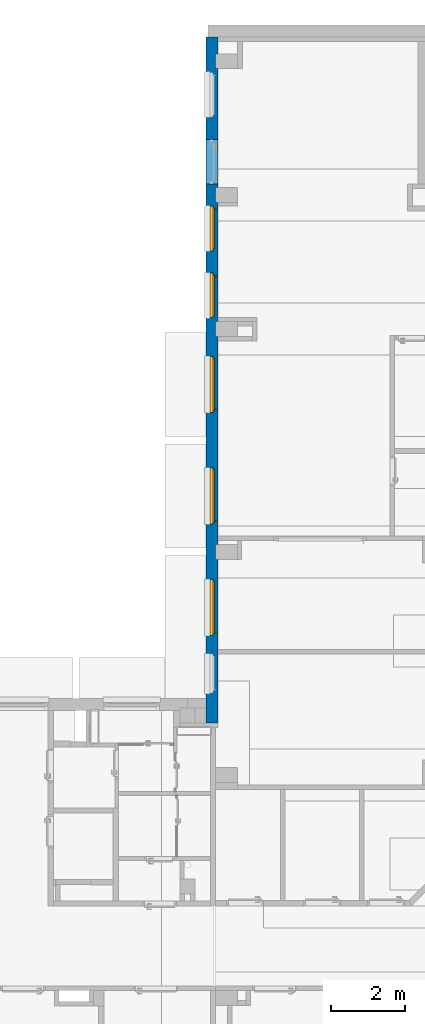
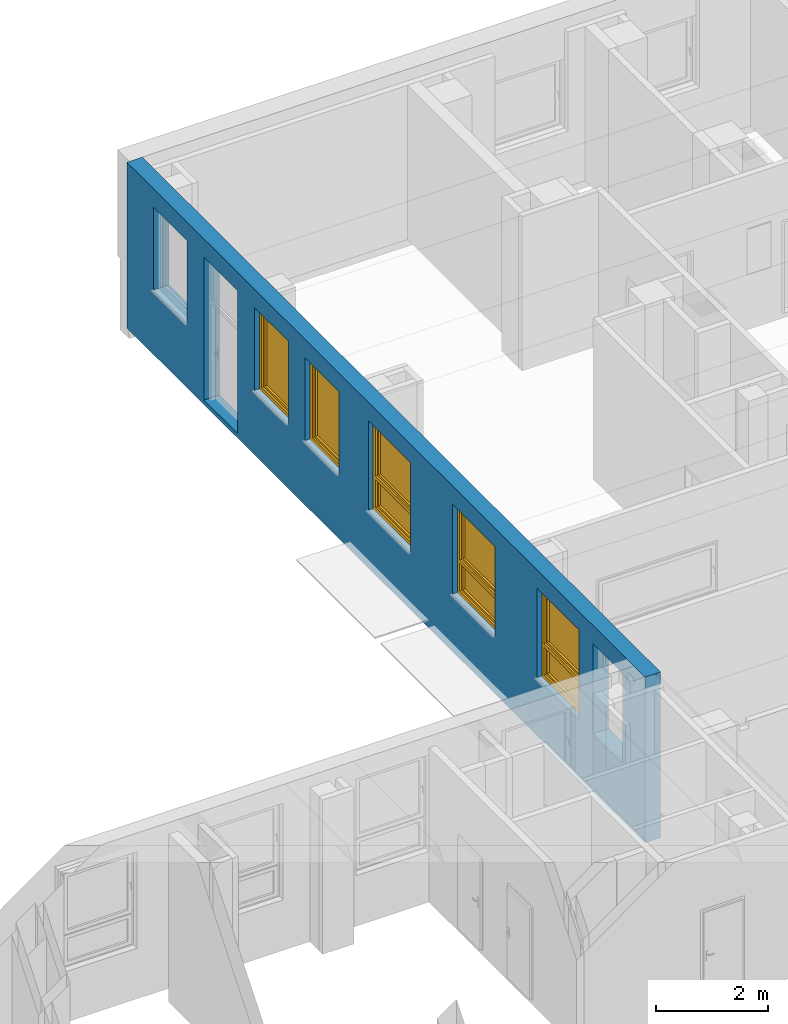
# One storey, part 46 of 140: 5 windows, 1 wall, 9 openings.
"""IFC4 building model written with IfcOpenShell, lengths in metres."""

from ifc_helpers import new_model, entity, si_unit, converted_unit, derived_unit, frame, frame_2d, origin, origin_with_axes, place, context, subcontext, project, spatial, polyline, rectangle, outline, extrude, clip, bounded_halfspace, closed_shell, open_shell, surface_model, source, transform, mapped, material, layer, layer_set, layer_usage, element, fill, save


model = new_model("IFC4")

# Units and contexts
model_context = context("Model", 3, precision=1e-05, world=origin())
body_context = subcontext(model_context, "Body", "Model", "MODEL_VIEW")
ifc_project = project(units=[si_unit("LENGTHUNIT", "METRE"), si_unit("AREAUNIT", "SQUARE_METRE"), si_unit("VOLUMEUNIT", "CUBIC_METRE"), si_unit("MASSUNIT", "GRAM", prefix="KILO"), converted_unit("PLANEANGLEUNIT", "DEGREE", entity("IfcPlaneAngleMeasure", 0.0174532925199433), si_unit("PLANEANGLEUNIT", "RADIAN"), dimensions=[0, 0, 0, 0, 0, 0, 0]), derived_unit("THERMALTRANSMITTANCEUNIT", [(si_unit("POWERUNIT", "WATT"), 1), (si_unit("THERMODYNAMICTEMPERATUREUNIT", "KELVIN"), -1), (si_unit("LENGTHUNIT", "METRE"), -2)]), derived_unit("VOLUMETRICFLOWRATEUNIT", [(si_unit("LENGTHUNIT", "METRE"), 3), (converted_unit("TIMEUNIT", "hour", entity("IfcTimeMeasure", 3600.0), si_unit("TIMEUNIT", "SECOND"), dimensions=[0, 0, 1, 0, 0, 0, 0]), -1), (si_unit("LENGTHUNIT", "METRE"), -1)])], contexts=[model_context])

# Site, building, storey
site_placement = place(None, origin())
site = spatial("IfcSite", under=ifc_project, at=site_placement, Name="3. ASŘ", CompositionType="ELEMENT")
building_placement = place(site_placement, origin())
building = spatial("IfcBuilding", under=site, at=building_placement, Name="Pavilon C", CompositionType="ELEMENT")
storey_placement = place(building_placement, origin())
storey = spatial("IfcBuildingStorey", under=building, at=storey_placement, Name="Půdorys 1.NP", CompositionType="ELEMENT", Elevation=0.0)

# Wall, openings, windows
ifc_material = material(Name="ZELEZOBETONOVÁ KCE")
ifc_layer = layer(ifc_material, 0.32)
ifc_layer_set = layer_set([ifc_layer])
ifc_layer_usage = layer_usage(ifc_layer_set, "AXIS2", "POSITIVE", 0.0)
wall_placement = place(storey_placement, frame((24.5, 33.05, -0.1), z_axis=(0.0, 0.0, 1.0), x_axis=(-1.97180423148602e-16, -1.0, 0.0)))
wall = element("IfcWall", 1, at=wall_placement, inside=storey, material=ifc_layer_usage, Name="ZELEZOBETONOVÁ KCE", context=body_context, shape_type="Clipping", body=[
    clip(clip(clip(clip(extrude(rectangle(XDim=18.45, YDim=0.32, at=frame_2d((9.225, 0.16), x_axis=(1.0, 0.0))), origin_with_axes(), (0.0, 0.0, 1.0), 3.6), bounded_halfspace(frame((0.65, 0.285, 3.35), z_axis=(0.0, 0.0, 1.0), x_axis=(1.97180423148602e-16, -1.0, 0.0)), True, origin_with_axes(), polyline([(0.45, 0.32), (0.45, 0.250000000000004), (0.85, 0.250000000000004), (0.85, 0.32), (0.45, 0.32)]))), bounded_halfspace(frame((4.25, 0.285000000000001, 3.35), z_axis=(0.0, 0.0, 1.0), x_axis=(1.97180423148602e-16, -1.0, 0.0)), True, origin_with_axes(), polyline([(4.05, 0.320000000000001), (4.05, 0.250000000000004), (4.45, 0.250000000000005), (4.45, 0.320000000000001), (4.05, 0.320000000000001)]))), bounded_halfspace(frame((7.85, 0.285000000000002, 3.35), z_axis=(0.0, 0.0, 1.0), x_axis=(1.97180423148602e-16, -1.0, 0.0)), True, origin_with_axes(), polyline([(7.65, 0.320000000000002), (7.65, 0.250000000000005), (8.05, 0.250000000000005), (8.05, 0.320000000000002), (7.65, 0.320000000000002)]))), bounded_halfspace(frame((13.85, 0.285000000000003, 3.35), z_axis=(0.0, 0.0, 1.0), x_axis=(1.97180423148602e-16, -1.0, 0.0)), True, origin_with_axes(), polyline([(13.65, 0.320000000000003), (13.65, 0.250000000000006), (14.05, 0.250000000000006), (14.05, 0.320000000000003), (13.65, 0.320000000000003)]))),
])
opening_1_placement = place(wall_placement, frame((18.3295933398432, 0.32, 3.15000000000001), z_axis=(-0.642787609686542, -0.766044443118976, 0.0), x_axis=(0.0, 0.0, 1.0)))
element("IfcOpeningElement", 2, at=opening_1_placement, cuts=wall, Name="CHL", ObjectType="Opening", context=body_context, shape_type="SweptSolid", body=[
    extrude(outline(polyline([(0.0999999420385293, 0.0), (0.0895470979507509, 0.000547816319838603), (0.0792087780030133, 0.00218525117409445), (0.0690982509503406, 0.00489436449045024), (0.059326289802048, 0.00864547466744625), (0.0499999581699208, 0.0133974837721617), (0.0412214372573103, 0.0190983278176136), (0.0330869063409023, 0.0256855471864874), (0.0256854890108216, 0.0330869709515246), (0.0190982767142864, 0.041221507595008), (0.0133974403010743, 0.0500000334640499), (0.00864543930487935, 0.0593263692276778), (0.0048943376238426, 0.0690983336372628), (0.00218523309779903, 0.0792088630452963), (0.000547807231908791, 0.0895471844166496), (0.0, 0.10000002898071), (0.000547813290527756, 0.110452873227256), (0.00218524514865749, 0.120791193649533), (0.00489435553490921, 0.130901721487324), (0.00864546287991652, 0.140673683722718), (0.0133974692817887, 0.150000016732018), (0.0190983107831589, 0.158778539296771), (0.0256855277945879, 0.166913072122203), (0.0330869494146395, 0.174314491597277), (0.0412214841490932, 0.180901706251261), (0.0500000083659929, 0.186602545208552), (0.0593263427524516, 0.191354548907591), (0.06909830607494, 0.195105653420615), (0.0792088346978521, 0.197814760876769), (0.0895471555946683, 0.199452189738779), (0.0999999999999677, 0.2), (0.110452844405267, 0.199452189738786), (0.120791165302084, 0.197814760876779), (0.130901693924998, 0.195105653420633), (0.140673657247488, 0.191354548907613), (0.14999999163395, 0.186602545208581), (0.158778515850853, 0.180901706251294), (0.16691305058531, 0.174314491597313), (0.174314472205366, 0.166913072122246), (0.180901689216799, 0.158778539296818), (0.186602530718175, 0.150000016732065), (0.191354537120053, 0.140673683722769), (0.195105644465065, 0.130901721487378), (0.197814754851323, 0.120791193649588), (0.199452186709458, 0.11045287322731), (0.199999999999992, 0.100000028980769), (0.199452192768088, 0.0895471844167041), (0.197814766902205, 0.0792088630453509), (0.195105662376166, 0.0690983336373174), (0.191354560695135, 0.0593263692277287), (0.186602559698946, 0.0500000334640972), (0.180901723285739, 0.0412215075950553), (0.174314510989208, 0.0330869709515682), (0.166913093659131, 0.0256855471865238), (0.158778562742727, 0.0190983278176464), (0.15000004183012, 0.0133974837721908), (0.140673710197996, 0.00864547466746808), (0.130901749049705, 0.00489436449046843), (0.120791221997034, 0.00218525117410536), (0.110452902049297, 0.000547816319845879), (0.0999999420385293, 0.0)])), origin_with_axes(), (0.0, 0.0, 1.0), 0.952730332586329),
])
opening_2_placement = place(wall_placement, frame((14.6, -7.5914462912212e-16, 1.25), z_axis=(0.0, 1.0, 0.0), x_axis=(0.0, 0.0, 1.0)))
opening_2 = element("IfcOpeningElement", 3, at=opening_2_placement, cuts=wall, Name="Okenní otvor", ObjectType="Opening", context=body_context, shape_type="SweptSolid", body=[
    extrude(outline(polyline([(0.0, 1.5), (1.95, 1.5), (1.95, 0.0), (0.0, 0.0), (0.0, 1.5)])), origin_with_axes(), (0.0, 0.0, 1.0), 0.32),
])
opening_3_placement = place(wall_placement, frame((11.6, -1.35068589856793e-15, 1.25), z_axis=(0.0, 1.0, 0.0), x_axis=(0.0, 0.0, 1.0)))
opening_3 = element("IfcOpeningElement", 4, at=opening_3_placement, cuts=wall, Name="Okenní otvor", ObjectType="Opening", context=body_context, shape_type="SweptSolid", body=[
    extrude(outline(polyline([(0.0, 1.5), (1.95, 1.5), (1.95, 0.0), (0.0, 0.0), (0.0, 1.5)])), origin_with_axes(), (0.0, 0.0, 1.0), 0.32),
])
opening_4_placement = place(wall_placement, frame((8.6, -1.94222716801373e-15, 1.25), z_axis=(0.0, 1.0, 0.0), x_axis=(0.0, 0.0, 1.0)))
opening_4 = element("IfcOpeningElement", 5, at=opening_4_placement, cuts=wall, Name="Okenní otvor", ObjectType="Opening", context=body_context, shape_type="SweptSolid", body=[
    extrude(outline(polyline([(0.0, 1.5), (1.95, 1.5), (1.95, 0.0), (0.0, 0.0), (0.0, 1.5)])), origin_with_axes(), (0.0, 0.0, 1.0), 0.320000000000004),
])
opening_5_placement = place(wall_placement, frame((6.35, 1.25209568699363e-15, 1.4), z_axis=(0.0, 1.0, 0.0), x_axis=(0.0, 0.0, 1.0)))
opening_5 = element("IfcOpeningElement", 6, at=opening_5_placement, cuts=wall, Name="Okenní otvor", ObjectType="Opening", context=body_context, shape_type="SweptSolid", body=[
    extrude(outline(polyline([(0.0, 1.2), (1.8, 1.2), (1.8, 0.0), (0.0, 0.0), (0.0, 1.2)])), origin_with_axes(), (0.0, 0.0, 1.0), 0.32),
])
opening_6_placement = place(wall_placement, frame((4.55000000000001, 8.97170925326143e-16, 1.4), z_axis=(0.0, 1.0, 0.0), x_axis=(0.0, 0.0, 1.0)))
opening_6 = element("IfcOpeningElement", 7, at=opening_6_placement, cuts=wall, Name="Okenní otvor", ObjectType="Opening", context=body_context, shape_type="SweptSolid", body=[
    extrude(outline(polyline([(0.0, 1.2), (1.8, 1.2), (1.8, 0.0), (0.0, 0.0), (0.0, 1.2)])), origin_with_axes(), (0.0, 0.0, 1.0), 0.32),
])
opening_7_placement = place(wall_placement, frame((0.950000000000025, 1.87321401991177e-16, 1.4), z_axis=(-3.5527136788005e-16, 1.0, 0.0), x_axis=(0.0, 0.0, 1.0)))
element("IfcOpeningElement", 8, at=opening_7_placement, cuts=wall, Name="Okenní otvor", ObjectType="Opening", context=body_context, shape_type="SweptSolid", body=[
    extrude(outline(polyline([(0.0, 1.2), (1.8, 1.2), (1.8, 0.0), (0.0, 0.0), (0.0, 1.2)])), origin_with_axes(), (0.0, 0.0, 1.0), 0.32),
])
opening_8_placement = place(wall_placement, frame((2.75000000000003, 5.42246163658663e-16, 0.1), z_axis=(0.0, 1.0, 0.0), x_axis=(0.0, 0.0, 1.0)))
element("IfcOpeningElement", 9, at=opening_8_placement, cuts=wall, Name="Dveřní otvor", ObjectType="Opening", context=body_context, shape_type="SweptSolid", body=[
    extrude(outline(polyline([(0.0, 1.2), (3.1, 1.2), (3.1, 0.0), (0.0, 0.0), (0.0, 1.2)])), origin_with_axes(), (0.0, 0.0, 1.0), 0.32),
])
opening_9_placement = place(wall_placement, frame((16.6, -3.64783782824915e-16, 1.25), z_axis=(0.0, 1.0, 0.0), x_axis=(0.0, 0.0, 1.0)))
element("IfcOpeningElement", 10, at=opening_9_placement, cuts=wall, Name="Okenní otvor", ObjectType="Opening", context=body_context, shape_type="SweptSolid", body=[
    extrude(outline(polyline([(0.0, 1.05), (1.95, 1.05), (1.95, 0.0), (0.0, 0.0), (0.0, 1.05)])), origin_with_axes(), (0.0, 0.0, 1.0), 0.32),
])
shared_shape_1 = source(origin_with_axes(), body_context, "Body", "SurfaceModel", [
    surface_model("IfcShellBasedSurfaceModel", [(0.0, 0.182, 1.95), (0.0, 0.182, -5.63337527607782e-18), (0.08, 0.182, -5.63337527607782e-18), (0.08, 0.182, 1.95), (0.0, 0.0899999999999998, 5.63337527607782e-18), (0.0, 0.0900000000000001, 1.95), (0.08, 0.0900000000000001, 1.95), (0.08, 0.0899999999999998, 5.63337527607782e-18)], [closed_shell([[[0, 1, 2, 3]], [[4, 5, 6, 7]], [[1, 0, 5, 4]], [[2, 1, 4, 7]], [[3, 2, 7, 6]], [[0, 3, 6, 5]]], orient=[[False], [False], [False], [False], [False], [False]])]),
    surface_model("IfcShellBasedSurfaceModel", [(1.42, 0.182, 1.95), (1.42, 0.182, -5.63337527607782e-18), (1.5, 0.182, -5.63337527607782e-18), (1.5, 0.182, 1.95), (1.42, 0.0899999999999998, 5.63337527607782e-18), (1.42, 0.0900000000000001, 1.95), (1.5, 0.0900000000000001, 1.95), (1.5, 0.0899999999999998, 5.63337527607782e-18)], [closed_shell([[[0, 1, 2, 3]], [[4, 5, 6, 7]], [[1, 0, 5, 4]], [[2, 1, 4, 7]], [[3, 2, 7, 6]], [[0, 3, 6, 5]]], orient=[[False], [False], [False], [False], [False], [False]])]),
    surface_model("IfcShellBasedSurfaceModel", [(0.08, 0.182, 0.08), (0.08, 0.182, -5.63337527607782e-18), (1.42, 0.182, -5.63337527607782e-18), (1.42, 0.182, 0.08), (0.08, 0.0899999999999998, 5.63337527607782e-18), (0.08, 0.0899999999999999, 0.08), (1.42, 0.0899999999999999, 0.08), (1.42, 0.0899999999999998, 5.63337527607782e-18)], [closed_shell([[[0, 1, 2, 3]], [[4, 5, 6, 7]], [[1, 0, 5, 4]], [[2, 1, 4, 7]], [[3, 2, 7, 6]], [[0, 3, 6, 5]]], orient=[[False], [False], [False], [False], [False], [False]])]),
    surface_model("IfcShellBasedSurfaceModel", [(0.08, 0.182, 1.95), (0.08, 0.182, 1.87), (1.42, 0.182, 1.87), (1.42, 0.182, 1.95), (0.08, 0.0900000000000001, 1.87), (0.08, 0.0900000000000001, 1.95), (1.42, 0.0900000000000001, 1.95), (1.42, 0.0900000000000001, 1.87)], [closed_shell([[[0, 1, 2, 3]], [[4, 5, 6, 7]], [[1, 0, 5, 4]], [[2, 1, 4, 7]], [[3, 2, 7, 6]], [[0, 3, 6, 5]]], orient=[[False], [False], [False], [False], [False], [False]])]),
    surface_model("IfcShellBasedSurfaceModel", [(0.08, 0.182, 0.76), (0.08, 0.182, 0.68), (1.42, 0.182, 0.68), (1.42, 0.182, 0.76), (0.08, 0.0899999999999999, 0.68), (0.08, 0.0899999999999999, 0.76), (1.42, 0.0899999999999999, 0.76), (1.42, 0.0899999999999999, 0.68)], [closed_shell([[[0, 1, 2, 3]], [[4, 5, 6, 7]], [[1, 0, 5, 4]], [[2, 1, 4, 7]], [[3, 2, 7, 6]], [[0, 3, 6, 5]]], orient=[[False], [False], [False], [False], [False], [False]])]),
    surface_model("IfcShellBasedSurfaceModel", [(0.05, 0.145, 0.71), (0.05, 0.145, 0.05), (0.13, 0.145, 0.05), (0.13, 0.145, 0.71), (0.05, 0.0599999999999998, 0.05), (0.05, 0.0599999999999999, 0.71), (0.13, 0.0599999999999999, 0.71), (0.13, 0.0599999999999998, 0.05)], [closed_shell([[[0, 1, 2, 3]], [[4, 5, 6, 7]], [[1, 0, 5, 4]], [[2, 1, 4, 7]], [[3, 2, 7, 6]], [[0, 3, 6, 5]]], orient=[[False], [False], [False], [False], [False], [False]])]),
    surface_model("IfcShellBasedSurfaceModel", [(1.37, 0.145, 0.71), (1.37, 0.145, 0.05), (1.45, 0.145, 0.05), (1.45, 0.145, 0.71), (1.37, 0.0599999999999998, 0.05), (1.37, 0.0599999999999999, 0.71), (1.45, 0.0599999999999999, 0.71), (1.45, 0.0599999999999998, 0.05)], [closed_shell([[[0, 1, 2, 3]], [[4, 5, 6, 7]], [[1, 0, 5, 4]], [[2, 1, 4, 7]], [[3, 2, 7, 6]], [[0, 3, 6, 5]]], orient=[[False], [False], [False], [False], [False], [False]])]),
    surface_model("IfcShellBasedSurfaceModel", [(0.13, 0.145, 0.13), (0.13, 0.145, 0.05), (1.37, 0.145, 0.05), (1.37, 0.145, 0.13), (0.13, 0.0599999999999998, 0.05), (0.13, 0.0599999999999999, 0.13), (1.37, 0.0599999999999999, 0.13), (1.37, 0.0599999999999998, 0.05)], [closed_shell([[[0, 1, 2, 3]], [[4, 5, 6, 7]], [[1, 0, 5, 4]], [[2, 1, 4, 7]], [[3, 2, 7, 6]], [[0, 3, 6, 5]]], orient=[[False], [False], [False], [False], [False], [False]])]),
    surface_model("IfcShellBasedSurfaceModel", [(0.13, 0.145, 0.71), (0.13, 0.145, 0.63), (1.37, 0.145, 0.63), (1.37, 0.145, 0.71), (0.13, 0.0599999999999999, 0.63), (0.13, 0.0599999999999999, 0.71), (1.37, 0.0599999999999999, 0.71), (1.37, 0.0599999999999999, 0.63)], [closed_shell([[[0, 1, 2, 3]], [[4, 5, 6, 7]], [[1, 0, 5, 4]], [[2, 1, 4, 7]], [[3, 2, 7, 6]], [[0, 3, 6, 5]]], orient=[[False], [False], [False], [False], [False], [False]])]),
    surface_model("IfcShellBasedSurfaceModel", [(0.05, 0.145, 1.9), (0.05, 0.145, 0.73), (0.13, 0.145, 0.73), (0.13, 0.145, 1.9), (0.05, 0.0599999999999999, 0.73), (0.05, 0.0600000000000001, 1.9), (0.13, 0.0600000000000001, 1.9), (0.13, 0.0599999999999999, 0.73)], [closed_shell([[[0, 1, 2, 3]], [[4, 5, 6, 7]], [[1, 0, 5, 4]], [[2, 1, 4, 7]], [[3, 2, 7, 6]], [[0, 3, 6, 5]]], orient=[[False], [False], [False], [False], [False], [False]])]),
    surface_model("IfcShellBasedSurfaceModel", [(1.37, 0.145, 1.9), (1.37, 0.145, 0.73), (1.45, 0.145, 0.73), (1.45, 0.145, 1.9), (1.37, 0.0599999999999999, 0.73), (1.37, 0.0600000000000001, 1.9), (1.45, 0.0600000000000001, 1.9), (1.45, 0.0599999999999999, 0.73)], [closed_shell([[[0, 1, 2, 3]], [[4, 5, 6, 7]], [[1, 0, 5, 4]], [[2, 1, 4, 7]], [[3, 2, 7, 6]], [[0, 3, 6, 5]]], orient=[[False], [False], [False], [False], [False], [False]])]),
    surface_model("IfcShellBasedSurfaceModel", [(0.13, 0.145, 0.81), (0.13, 0.145, 0.73), (1.37, 0.145, 0.73), (1.37, 0.145, 0.81), (0.13, 0.0599999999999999, 0.73), (0.13, 0.0599999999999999, 0.81), (1.37, 0.0599999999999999, 0.81), (1.37, 0.0599999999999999, 0.73)], [closed_shell([[[0, 1, 2, 3]], [[4, 5, 6, 7]], [[1, 0, 5, 4]], [[2, 1, 4, 7]], [[3, 2, 7, 6]], [[0, 3, 6, 5]]], orient=[[False], [False], [False], [False], [False], [False]])]),
    surface_model("IfcShellBasedSurfaceModel", [(0.13, 0.145, 1.9), (0.13, 0.145, 1.82), (1.37, 0.145, 1.82), (1.37, 0.145, 1.9), (0.13, 0.0600000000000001, 1.82), (0.13, 0.0600000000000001, 1.9), (1.37, 0.0600000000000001, 1.9), (1.37, 0.0600000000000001, 1.82)], [closed_shell([[[0, 1, 2, 3]], [[4, 5, 6, 7]], [[1, 0, 5, 4]], [[2, 1, 4, 7]], [[3, 2, 7, 6]], [[0, 3, 6, 5]]], orient=[[False], [False], [False], [False], [False], [False]])]),
    surface_model("IfcShellBasedSurfaceModel", [(0.0775, 0.06, 1.335), (0.0775, 0.06, 1.295), (0.1025, 0.06, 1.295), (0.1025, 0.06, 1.335), (0.0775, 0.05, 1.295), (0.0775, 0.05, 1.335), (0.1025, 0.05, 1.335), (0.1025, 0.05, 1.295)], [closed_shell([[[0, 1, 2, 3]], [[4, 5, 6, 7]], [[1, 0, 5, 4]], [[2, 1, 4, 7]], [[3, 2, 7, 6]], [[0, 3, 6, 5]]], orient=[[False], [False], [False], [False], [False], [False]])]),
    surface_model("IfcShellBasedSurfaceModel", [(0.1, 0.05, 1.315), (0.0986602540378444, 0.05, 1.32), (0.095, 0.05, 1.32366025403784), (0.09, 0.05, 1.325), (0.085, 0.05, 1.32366025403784), (0.0813397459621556, 0.05, 1.32), (0.08, 0.05, 1.315), (0.0813397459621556, 0.05, 1.31), (0.085, 0.05, 1.30633974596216), (0.09, 0.05, 1.305), (0.095, 0.05, 1.30633974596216), (0.0986602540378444, 0.05, 1.31), (0.1, 0.01, 1.315), (0.0986602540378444, 0.00500000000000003, 1.32), (0.095, 0.00133974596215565, 1.32366025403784), (0.09, 2.8421709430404e-17, 1.325), (0.085, 0.00133974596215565, 1.32366025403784), (0.0813397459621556, 0.00500000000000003, 1.32), (0.08, 0.01, 1.315), (0.0813397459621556, 0.015, 1.31), (0.085, 0.0186602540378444, 1.30633974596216), (0.09, 0.02, 1.305), (0.095, 0.0186602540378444, 1.30633974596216), (0.0986602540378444, 0.015, 1.31), (0.1, 0.01, 1.2), (0.0986602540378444, 0.005, 1.2), (0.095, 0.00133974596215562, 1.2), (0.09, 0.0, 1.2), (0.085, 0.00133974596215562, 1.2), (0.0813397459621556, 0.005, 1.2), (0.08, 0.01, 1.2), (0.0813397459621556, 0.015, 1.2), (0.085, 0.0186602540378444, 1.2), (0.09, 0.02, 1.2), (0.095, 0.0186602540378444, 1.2), (0.0986602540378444, 0.015, 1.2)], [open_shell([[[0, 1, 2, 3, 4, 5, 6, 7, 8, 9, 10, 11]], [[0, 12, 13, 1]], [[1, 13, 14, 2]], [[2, 14, 15, 3]], [[3, 15, 16, 4]], [[4, 16, 17, 5]], [[5, 17, 18, 6]], [[6, 18, 19, 7]], [[7, 19, 20, 8]], [[8, 20, 21, 9]], [[9, 21, 22, 10]], [[10, 22, 23, 11]], [[11, 23, 12, 0]], [[12, 24, 25, 13]], [[13, 25, 26, 14]], [[14, 26, 27, 15]], [[15, 27, 28, 16]], [[16, 28, 29, 17]], [[17, 29, 30, 18]], [[18, 30, 31, 19]], [[19, 31, 32, 20]], [[20, 32, 33, 21]], [[21, 33, 34, 22]], [[22, 34, 35, 23]], [[23, 35, 24, 12]]], orient=[[False], [False], [False], [False], [False], [False], [False], [False], [False], [False], [False], [False], [False], [False], [False], [False], [False], [False], [False], [False], [False], [False], [False], [False], [False]])]),
    surface_model("IfcShellBasedSurfaceModel", [(0.13, 0.1025, 0.13), (1.37, 0.1025, 0.13), (1.37, 0.1025, 0.63), (0.13, 0.1025, 0.63)], [open_shell([[[0, 1, 2, 3]]], orient=[[False]])]),
    surface_model("IfcShellBasedSurfaceModel", [(0.13, 0.1025, 0.81), (1.37, 0.1025, 0.81), (1.37, 0.1025, 1.82), (0.13, 0.1025, 1.82)], [open_shell([[[0, 1, 2, 3]]], orient=[[False]])]),
])
window_1_placement = place(opening_2_placement, frame((0.0, 1.50000000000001, 0.281999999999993), z_axis=(1.0, 0.0, 0.0), x_axis=(0.0, -1.0, -7.4715743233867e-17)))
window_1 = element("IfcWindow", 11, at=window_1_placement, inside=storey, Name="O06", OverallHeight=1.95, OverallWidth=1.5, PartitioningType="USERDEFINED", PredefinedType="WINDOW", context=body_context, shape_type="MappedRepresentation", body=[
    mapped(shared_shape_1, transform((0.0, 0.0, 0.0), x_axis=(1.0, 0.0, 0.0), y_axis=(0.0, 1.0, 0.0), z_axis=(0.0, 0.0, 1.0), scale=1.0)),
])
fill(opening_2, window_1)
window_2_placement = place(opening_3_placement, frame((0.0, 1.50000000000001, 0.281999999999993), z_axis=(1.0, 0.0, 0.0), x_axis=(0.0, -1.0, -7.4715743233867e-17)))
window_2 = element("IfcWindow", 12, at=window_2_placement, inside=storey, Name="O06", OverallHeight=1.95, OverallWidth=1.5, PartitioningType="USERDEFINED", PredefinedType="WINDOW", context=body_context, shape_type="MappedRepresentation", body=[
    mapped(shared_shape_1, transform((0.0, 0.0, 0.0), x_axis=(1.0, 0.0, 0.0), y_axis=(0.0, 1.0, 0.0), z_axis=(0.0, 0.0, 1.0), scale=1.0)),
])
fill(opening_3, window_2)
window_3_placement = place(opening_4_placement, frame((0.0, 1.50000000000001, 0.281999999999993), z_axis=(1.0, 0.0, 0.0), x_axis=(0.0, -1.0, -7.4715743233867e-17)))
window_3 = element("IfcWindow", 13, at=window_3_placement, inside=storey, Name="O06", OverallHeight=1.95, OverallWidth=1.5, PartitioningType="USERDEFINED", PredefinedType="WINDOW", context=body_context, shape_type="MappedRepresentation", body=[
    mapped(shared_shape_1, transform((0.0, 0.0, 0.0), x_axis=(1.0, 0.0, 0.0), y_axis=(0.0, 1.0, 0.0), z_axis=(0.0, 0.0, 1.0), scale=1.0)),
])
fill(opening_4, window_3)
shared_shape_2 = source(origin_with_axes(), body_context, "Body", "SurfaceModel", [
    surface_model("IfcShellBasedSurfaceModel", [(0.0, 0.182, 1.8), (0.0, 0.182, -5.63337527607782e-18), (0.08, 0.182, -5.63337527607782e-18), (0.08, 0.182, 1.8), (0.0, 0.0899999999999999, 5.63337527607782e-18), (0.0, 0.0900000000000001, 1.8), (0.08, 0.0900000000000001, 1.8), (0.08, 0.0899999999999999, 5.63337527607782e-18)], [closed_shell([[[0, 1, 2, 3]], [[4, 5, 6, 7]], [[1, 0, 5, 4]], [[2, 1, 4, 7]], [[3, 2, 7, 6]], [[0, 3, 6, 5]]], orient=[[False], [False], [False], [False], [False], [False]])]),
    surface_model("IfcShellBasedSurfaceModel", [(1.12, 0.182, 1.8), (1.12, 0.182, -5.63337527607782e-18), (1.2, 0.182, -5.63337527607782e-18), (1.2, 0.182, 1.8), (1.12, 0.0899999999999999, 5.63337527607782e-18), (1.12, 0.0900000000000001, 1.8), (1.2, 0.0900000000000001, 1.8), (1.2, 0.0899999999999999, 5.63337527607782e-18)], [closed_shell([[[0, 1, 2, 3]], [[4, 5, 6, 7]], [[1, 0, 5, 4]], [[2, 1, 4, 7]], [[3, 2, 7, 6]], [[0, 3, 6, 5]]], orient=[[False], [False], [False], [False], [False], [False]])]),
    surface_model("IfcShellBasedSurfaceModel", [(0.08, 0.182, 0.08), (0.08, 0.182, -5.63337527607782e-18), (1.12, 0.182, -5.63337527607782e-18), (1.12, 0.182, 0.08), (0.08, 0.0899999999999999, 5.63337527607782e-18), (0.08, 0.0899999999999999, 0.08), (1.12, 0.0899999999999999, 0.08), (1.12, 0.0899999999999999, 5.63337527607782e-18)], [closed_shell([[[0, 1, 2, 3]], [[4, 5, 6, 7]], [[1, 0, 5, 4]], [[2, 1, 4, 7]], [[3, 2, 7, 6]], [[0, 3, 6, 5]]], orient=[[False], [False], [False], [False], [False], [False]])]),
    surface_model("IfcShellBasedSurfaceModel", [(0.08, 0.182, 1.8), (0.08, 0.182, 1.72), (1.12, 0.182, 1.72), (1.12, 0.182, 1.8), (0.08, 0.0900000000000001, 1.72), (0.08, 0.0900000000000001, 1.8), (1.12, 0.0900000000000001, 1.8), (1.12, 0.0900000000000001, 1.72)], [closed_shell([[[0, 1, 2, 3]], [[4, 5, 6, 7]], [[1, 0, 5, 4]], [[2, 1, 4, 7]], [[3, 2, 7, 6]], [[0, 3, 6, 5]]], orient=[[False], [False], [False], [False], [False], [False]])]),
    surface_model("IfcShellBasedSurfaceModel", [(0.05, 0.145, 1.75), (0.05, 0.145, 0.05), (0.13, 0.145, 0.05), (0.13, 0.145, 1.75), (0.05, 0.0599999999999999, 0.05), (0.05, 0.0600000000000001, 1.75), (0.13, 0.0600000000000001, 1.75), (0.13, 0.0599999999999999, 0.05)], [closed_shell([[[0, 1, 2, 3]], [[4, 5, 6, 7]], [[1, 0, 5, 4]], [[2, 1, 4, 7]], [[3, 2, 7, 6]], [[0, 3, 6, 5]]], orient=[[False], [False], [False], [False], [False], [False]])]),
    surface_model("IfcShellBasedSurfaceModel", [(1.07, 0.145, 1.75), (1.07, 0.145, 0.05), (1.15, 0.145, 0.05), (1.15, 0.145, 1.75), (1.07, 0.0599999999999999, 0.05), (1.07, 0.0600000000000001, 1.75), (1.15, 0.0600000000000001, 1.75), (1.15, 0.0599999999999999, 0.05)], [closed_shell([[[0, 1, 2, 3]], [[4, 5, 6, 7]], [[1, 0, 5, 4]], [[2, 1, 4, 7]], [[3, 2, 7, 6]], [[0, 3, 6, 5]]], orient=[[False], [False], [False], [False], [False], [False]])]),
    surface_model("IfcShellBasedSurfaceModel", [(0.13, 0.145, 0.13), (0.13, 0.145, 0.05), (1.07, 0.145, 0.05), (1.07, 0.145, 0.13), (0.13, 0.0599999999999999, 0.05), (0.13, 0.0599999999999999, 0.13), (1.07, 0.0599999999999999, 0.13), (1.07, 0.0599999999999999, 0.05)], [closed_shell([[[0, 1, 2, 3]], [[4, 5, 6, 7]], [[1, 0, 5, 4]], [[2, 1, 4, 7]], [[3, 2, 7, 6]], [[0, 3, 6, 5]]], orient=[[False], [False], [False], [False], [False], [False]])]),
    surface_model("IfcShellBasedSurfaceModel", [(0.13, 0.145, 1.75), (0.13, 0.145, 1.67), (1.07, 0.145, 1.67), (1.07, 0.145, 1.75), (0.13, 0.0600000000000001, 1.67), (0.13, 0.0600000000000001, 1.75), (1.07, 0.0600000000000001, 1.75), (1.07, 0.0600000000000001, 1.67)], [closed_shell([[[0, 1, 2, 3]], [[4, 5, 6, 7]], [[1, 0, 5, 4]], [[2, 1, 4, 7]], [[3, 2, 7, 6]], [[0, 3, 6, 5]]], orient=[[False], [False], [False], [False], [False], [False]])]),
    surface_model("IfcShellBasedSurfaceModel", [(1.0975, 0.06, 0.92), (1.0975, 0.06, 0.88), (1.1225, 0.06, 0.88), (1.1225, 0.06, 0.92), (1.0975, 0.05, 0.88), (1.0975, 0.05, 0.92), (1.1225, 0.05, 0.92), (1.1225, 0.05, 0.88)], [closed_shell([[[0, 1, 2, 3]], [[4, 5, 6, 7]], [[1, 0, 5, 4]], [[2, 1, 4, 7]], [[3, 2, 7, 6]], [[0, 3, 6, 5]]], orient=[[False], [False], [False], [False], [False], [False]])]),
    surface_model("IfcShellBasedSurfaceModel", [(1.12, 0.05, 0.9), (1.11866025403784, 0.05, 0.905), (1.115, 0.05, 0.908660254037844), (1.11, 0.05, 0.91), (1.105, 0.05, 0.908660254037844), (1.10133974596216, 0.05, 0.905), (1.1, 0.05, 0.9), (1.10133974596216, 0.05, 0.895), (1.105, 0.05, 0.891339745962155), (1.11, 0.05, 0.89), (1.115, 0.05, 0.891339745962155), (1.11866025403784, 0.05, 0.895), (1.12, 0.01, 0.9), (1.11866025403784, 0.00500000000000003, 0.905), (1.115, 0.00133974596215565, 0.908660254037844), (1.11, 2.8421709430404e-17, 0.91), (1.105, 0.00133974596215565, 0.908660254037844), (1.10133974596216, 0.00500000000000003, 0.905), (1.1, 0.01, 0.9), (1.10133974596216, 0.015, 0.895), (1.105, 0.0186602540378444, 0.891339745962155), (1.11, 0.02, 0.89), (1.115, 0.0186602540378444, 0.891339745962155), (1.11866025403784, 0.015, 0.895), (1.12, 0.01, 0.785), (1.11866025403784, 0.005, 0.785), (1.115, 0.00133974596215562, 0.785), (1.11, 0.0, 0.785), (1.105, 0.00133974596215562, 0.785), (1.10133974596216, 0.005, 0.785), (1.1, 0.01, 0.785), (1.10133974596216, 0.015, 0.785), (1.105, 0.0186602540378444, 0.785), (1.11, 0.02, 0.785), (1.115, 0.0186602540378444, 0.785), (1.11866025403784, 0.015, 0.785)], [open_shell([[[0, 1, 2, 3, 4, 5, 6, 7, 8, 9, 10, 11]], [[0, 12, 13, 1]], [[1, 13, 14, 2]], [[2, 14, 15, 3]], [[3, 15, 16, 4]], [[4, 16, 17, 5]], [[5, 17, 18, 6]], [[6, 18, 19, 7]], [[7, 19, 20, 8]], [[8, 20, 21, 9]], [[9, 21, 22, 10]], [[10, 22, 23, 11]], [[11, 23, 12, 0]], [[12, 24, 25, 13]], [[13, 25, 26, 14]], [[14, 26, 27, 15]], [[15, 27, 28, 16]], [[16, 28, 29, 17]], [[17, 29, 30, 18]], [[18, 30, 31, 19]], [[19, 31, 32, 20]], [[20, 32, 33, 21]], [[21, 33, 34, 22]], [[22, 34, 35, 23]], [[23, 35, 24, 12]]], orient=[[False], [False], [False], [False], [False], [False], [False], [False], [False], [False], [False], [False], [False], [False], [False], [False], [False], [False], [False], [False], [False], [False], [False], [False], [False]])]),
    surface_model("IfcShellBasedSurfaceModel", [(0.13, 0.1025, 0.13), (1.07, 0.1025, 0.13), (1.07, 0.1025, 1.67), (0.13, 0.1025, 1.67)], [open_shell([[[0, 1, 2, 3]]], orient=[[False]])]),
])
window_4_placement = place(opening_5_placement, frame((0.0, 1.20000000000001, 0.281999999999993), z_axis=(1.0, 0.0, 0.0), x_axis=(0.0, -1.0, -7.4715743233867e-17)))
window_4 = element("IfcWindow", 14, at=window_4_placement, inside=storey, Name="O06", OverallHeight=1.8, OverallWidth=1.2, PartitioningType="USERDEFINED", PredefinedType="WINDOW", context=body_context, shape_type="MappedRepresentation", body=[
    mapped(shared_shape_2, transform((0.0, 0.0, 0.0), x_axis=(1.0, 0.0, 0.0), y_axis=(0.0, 1.0, 0.0), z_axis=(0.0, 0.0, 1.0), scale=1.0)),
])
fill(opening_5, window_4)
window_5_placement = place(opening_6_placement, frame((0.0, 1.20000000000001, 0.281999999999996), z_axis=(1.0, 0.0, 0.0), x_axis=(0.0, -1.0, -7.4715743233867e-17)))
window_5 = element("IfcWindow", 15, at=window_5_placement, inside=storey, Name="O06", OverallHeight=1.8, OverallWidth=1.2, PartitioningType="USERDEFINED", PredefinedType="WINDOW", context=body_context, shape_type="MappedRepresentation", body=[
    mapped(shared_shape_2, transform((0.0, 0.0, 0.0), x_axis=(1.0, 0.0, 0.0), y_axis=(0.0, 1.0, 0.0), z_axis=(0.0, 0.0, 1.0), scale=1.0)),
])
fill(opening_6, window_5)

save(model, "model.ifc")
